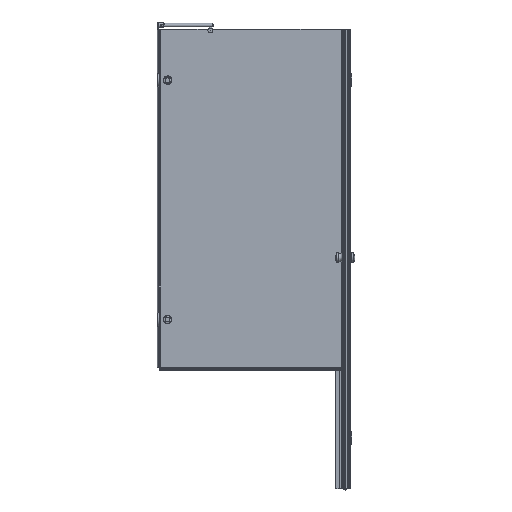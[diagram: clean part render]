
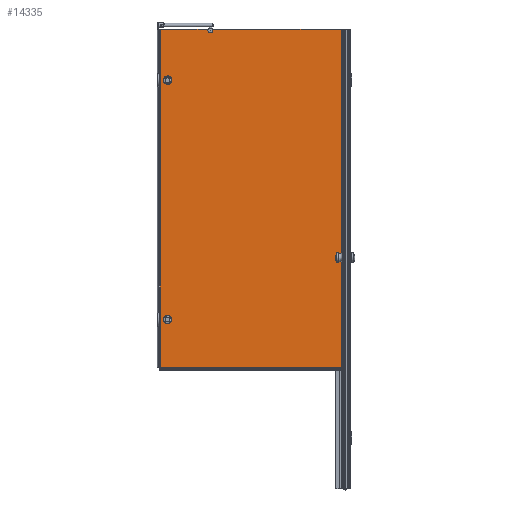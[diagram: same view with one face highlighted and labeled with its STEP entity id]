
A CAD part, left-side view. The second image highlights one B-rep face of the part: STEP entity #14335.
In plain terms, the highlighted planar face has unit normal (-1, 0, 0).
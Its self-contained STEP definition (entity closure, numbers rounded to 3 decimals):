
#387=FACE_BOUND($,#1288,.T.);
#388=FACE_BOUND($,#1289,.T.);
#389=FACE_BOUND($,#1290,.T.);
#1288=EDGE_LOOP($,(#9232));
#1289=EDGE_LOOP($,(#9233));
#1290=EDGE_LOOP($,(#9234,#9235,#9236,#9237,#9238,#9239,#9240,#9241,#9242,
#9243,#9244,#9245,#9246,#9247,#9248));
#2118=LINE($,#20935,#3589);
#2119=LINE($,#20937,#3590);
#2120=LINE($,#20939,#3591);
#2121=LINE($,#20941,#3592);
#2122=LINE($,#20943,#3593);
#2123=LINE($,#20945,#3594);
#2124=LINE($,#20947,#3595);
#2125=LINE($,#20949,#3596);
#2126=LINE($,#20951,#3597);
#2127=LINE($,#20953,#3598);
#2128=LINE($,#20955,#3599);
#2129=LINE($,#20957,#3600);
#2130=LINE($,#20959,#3601);
#2131=LINE($,#20960,#3602);
#3589=VECTOR($,#16625,198.474);
#3590=VECTOR($,#16626,1397.);
#3591=VECTOR($,#16627,2.557);
#3592=VECTOR($,#16628,1397.);
#3593=VECTOR($,#16629,2.443);
#3594=VECTOR($,#16630,1397.);
#3595=VECTOR($,#16631,11.25);
#3596=VECTOR($,#16632,753.);
#3597=VECTOR($,#16633,0.5);
#3598=VECTOR($,#16634,753.);
#3599=VECTOR($,#16635,1.25);
#3600=VECTOR($,#16636,753.4);
#3601=VECTOR($,#16637,1410.);
#3602=VECTOR($,#16638,532.066);
#4986=CIRCLE($,#15050,15.);
#5011=CIRCLE($,#15104,15.);
#5015=CIRCLE($,#15109,10.);
#5522=VERTEX_POINT($,#20459);
#5577=VERTEX_POINT($,#20676);
#5586=VERTEX_POINT($,#20730);
#5587=VERTEX_POINT($,#20732);
#5604=VERTEX_POINT($,#20934);
#5605=VERTEX_POINT($,#20936);
#5606=VERTEX_POINT($,#20938);
#5607=VERTEX_POINT($,#20940);
#5608=VERTEX_POINT($,#20942);
#5609=VERTEX_POINT($,#20944);
#5610=VERTEX_POINT($,#20946);
#5611=VERTEX_POINT($,#20948);
#5612=VERTEX_POINT($,#20950);
#5613=VERTEX_POINT($,#20952);
#5614=VERTEX_POINT($,#20954);
#5615=VERTEX_POINT($,#20956);
#5616=VERTEX_POINT($,#20958);
#6919=EDGE_CURVE($,#5522,#5522,#4986,.T.);
#6994=EDGE_CURVE($,#5577,#5577,#5011,.T.);
#7003=EDGE_CURVE($,#5587,#5586,#5015,.T.);
#7027=EDGE_CURVE($,#5586,#5604,#2118,.T.);
#7028=EDGE_CURVE($,#5604,#5605,#2119,.T.);
#7029=EDGE_CURVE($,#5605,#5606,#2120,.T.);
#7030=EDGE_CURVE($,#5606,#5607,#2121,.T.);
#7031=EDGE_CURVE($,#5607,#5608,#2122,.T.);
#7032=EDGE_CURVE($,#5608,#5609,#2123,.T.);
#7033=EDGE_CURVE($,#5609,#5610,#2124,.T.);
#7034=EDGE_CURVE($,#5610,#5611,#2125,.T.);
#7035=EDGE_CURVE($,#5611,#5612,#2126,.T.);
#7036=EDGE_CURVE($,#5613,#5612,#2127,.T.);
#7037=EDGE_CURVE($,#5613,#5614,#2128,.T.);
#7038=EDGE_CURVE($,#5615,#5614,#2129,.T.);
#7039=EDGE_CURVE($,#5616,#5615,#2130,.T.);
#7040=EDGE_CURVE($,#5616,#5587,#2131,.T.);
#9232=ORIENTED_EDGE($,*,*,#6919,.T.);
#9233=ORIENTED_EDGE($,*,*,#6994,.T.);
#9234=ORIENTED_EDGE($,*,*,#7003,.T.);
#9235=ORIENTED_EDGE($,*,*,#7027,.T.);
#9236=ORIENTED_EDGE($,*,*,#7028,.T.);
#9237=ORIENTED_EDGE($,*,*,#7029,.T.);
#9238=ORIENTED_EDGE($,*,*,#7030,.T.);
#9239=ORIENTED_EDGE($,*,*,#7031,.T.);
#9240=ORIENTED_EDGE($,*,*,#7032,.T.);
#9241=ORIENTED_EDGE($,*,*,#7033,.T.);
#9242=ORIENTED_EDGE($,*,*,#7034,.T.);
#9243=ORIENTED_EDGE($,*,*,#7035,.T.);
#9244=ORIENTED_EDGE($,*,*,#7036,.F.);
#9245=ORIENTED_EDGE($,*,*,#7037,.T.);
#9246=ORIENTED_EDGE($,*,*,#7038,.F.);
#9247=ORIENTED_EDGE($,*,*,#7039,.F.);
#9248=ORIENTED_EDGE($,*,*,#7040,.T.);
#13099=PLANE($,#15130);
#14335=ADVANCED_FACE($,(#387,#388,#389),#13099,.T.);
#15050=AXIS2_PLACEMENT_3D($,#20460,#16407,#16408);
#15104=AXIS2_PLACEMENT_3D($,#20677,#16563,#16564);
#15109=AXIS2_PLACEMENT_3D($,#20733,#16574,#16575);
#15130=AXIS2_PLACEMENT_3D($,#20933,#16623,#16624);
#16407=DIRECTION('center_axis',(1.,0.,0.));
#16408=DIRECTION('ref_axis',(0.,-1.,0.));
#16563=DIRECTION('center_axis',(1.,0.,0.));
#16564=DIRECTION('ref_axis',(0.,-1.,0.));
#16574=DIRECTION('center_axis',(1.,0.,0.));
#16575=DIRECTION('ref_axis',(0.,0.597,0.802));
#16623=DIRECTION('center_axis',(-1.,0.,0.));
#16624=DIRECTION('ref_axis',(0.,1.,0.));
#16625=DIRECTION($,(0.,1.,0.));
#16626=DIRECTION($,(0.,0.,-1.));
#16627=DIRECTION($,(0.,1.,0.));
#16628=DIRECTION($,(0.,0.,1.));
#16629=DIRECTION($,(0.,1.,0.));
#16630=DIRECTION($,(0.,0.,-1.));
#16631=DIRECTION($,(0.,0.,-1.));
#16632=DIRECTION($,(0.,-1.,0.));
#16633=DIRECTION($,(0.,0.,-1.));
#16634=DIRECTION($,(0.,-1.,0.));
#16635=DIRECTION($,(0.,0.,-1.));
#16636=DIRECTION($,(0.,1.,0.));
#16637=DIRECTION($,(0.,0.,-1.));
#16638=DIRECTION($,(0.,1.,0.));
#20459=CARTESIAN_POINT('',(1069.305,718.956,1174.944));
#20460=CARTESIAN_POINT('Origin',(1069.305,703.956,1174.944));
#20676=CARTESIAN_POINT('',(1069.305,718.956,184.944));
#20677=CARTESIAN_POINT('Origin',(1069.305,703.956,184.944));
#20730=CARTESIAN_POINT('',(1069.305,535.482,1384.944));
#20732=CARTESIAN_POINT('',(1069.305,517.622,1384.944));
#20733=CARTESIAN_POINT('Origin',(1069.305,526.552,1380.444));
#20933=CARTESIAN_POINT('Origin',(1069.305,-19.044,1384.944));
#20934=CARTESIAN_POINT('',(1069.305,733.956,1384.944));
#20935=CARTESIAN_POINT($,(1069.305,-19.044,1384.944));
#20936=CARTESIAN_POINT('',(1069.305,733.956,-12.056));
#20937=CARTESIAN_POINT($,(1069.305,733.956,686.444));
#20938=CARTESIAN_POINT('',(1069.305,736.513,-12.056));
#20939=CARTESIAN_POINT($,(1069.305,359.353,-12.056));
#20940=CARTESIAN_POINT('',(1069.305,736.513,1384.944));
#20941=CARTESIAN_POINT($,(1069.305,736.513,686.444));
#20942=CARTESIAN_POINT('',(1069.305,738.956,1384.944));
#20943=CARTESIAN_POINT($,(1069.305,-19.044,1384.944));
#20944=CARTESIAN_POINT('',(1069.305,738.956,-12.056));
#20945=CARTESIAN_POINT($,(1069.305,738.956,1384.944));
#20946=CARTESIAN_POINT('',(1069.305,738.956,-23.306));
#20947=CARTESIAN_POINT($,(1069.305,738.956,1384.944));
#20948=CARTESIAN_POINT('',(1069.305,-14.044,-23.306));
#20949=CARTESIAN_POINT($,(1069.305,738.956,-23.306));
#20950=CARTESIAN_POINT('',(1069.305,-14.044,-23.806));
#20951=CARTESIAN_POINT($,(1069.305,-14.044,680.691));
#20952=CARTESIAN_POINT('',(1069.305,738.956,-23.806));
#20953=CARTESIAN_POINT($,(1069.305,738.956,-23.806));
#20954=CARTESIAN_POINT('',(1069.305,738.956,-25.056));
#20955=CARTESIAN_POINT($,(1069.305,738.956,1384.944));
#20956=CARTESIAN_POINT('',(1069.305,-14.444,-25.056));
#20957=CARTESIAN_POINT($,(1069.305,-19.044,-25.056));
#20958=CARTESIAN_POINT('',(1069.305,-14.444,1384.944));
#20959=CARTESIAN_POINT($,(1069.305,-14.444,1384.944));
#20960=CARTESIAN_POINT($,(1069.305,-19.044,1384.944));
